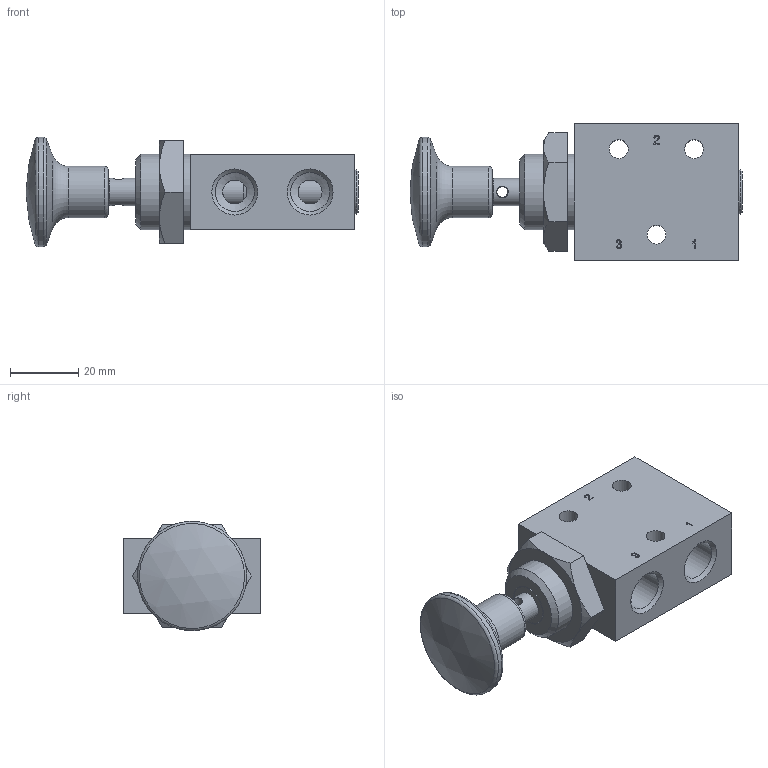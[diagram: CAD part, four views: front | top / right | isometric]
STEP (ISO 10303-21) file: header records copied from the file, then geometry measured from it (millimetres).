
FILE_DESCRIPTION( ( 'Unknown' ), '1' );
FILE_NAME( 'Q:/Solid Edge ST4/weblap modellek/stp/második adag/BH 320 701.stp', 'Unknown', ( 'Unknown' ), ( 'Unknown' ), 'PSStep 14.0', 'Unknown', ' ' );
FILE_SCHEMA( ( 'AUTOMOTIVE_DESIGN { 1 0 10303 214 1 1 1 1 }' ) );
Length unit declared in the file: millimetre
Products named in the file (7): Assem1
Assembly tree (6 placements, depth 2):
  Assem1
    (unnamed)
    (unnamed)
    (unnamed)
    (unnamed)
    (unnamed)
    (unnamed)
Bounding box: 97 x 40 x 31.94 mm (x, y, z)
Surface area: 19244.9 mm2 (no closed solid volume)
Topology: 0 solids, 99 shells, 99 faces, 444 edges, 401 vertices
Faces by surface type: plane 35, cone 22, cylinder 20, extrusion 15, torus 4, bspline 2, sphere 1
Full cylindrical faces by diameter (mm): 1.6 x1, 3.2 x1, 4.5 x1, 5.5 x3, 8 x2, 9 x1, 11.445 x6, 12 x1, 13 x1, 15 x1, 22 x1, 32 x1
Entity records: 6332 total; most frequent: CARTESIAN_POINT 2789, DIRECTION 599, ORIENTED_EDGE 383, EDGE_CURVE 383, VERTEX_POINT 383, AXIS2_PLACEMENT_3D 209, VECTOR 181, FACE_BOUND 168
